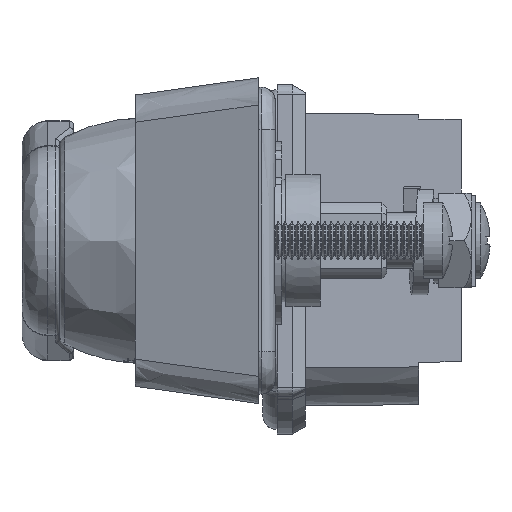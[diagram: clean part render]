
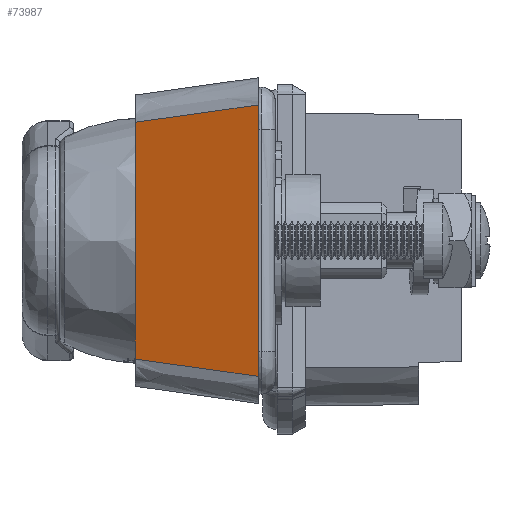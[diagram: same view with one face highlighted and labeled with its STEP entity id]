
A CAD part, left-side view. The second image highlights one B-rep face of the part: STEP entity #73987.
In plain terms, the highlighted planar face has unit normal (-0.94, 0.342, 0) as drawn and (0.94, -0.342, 0) by its records, which use the part's own axes.
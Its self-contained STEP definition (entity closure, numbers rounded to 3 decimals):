
#279 = EDGE_CURVE ( 'NONE', #61958, #84109, #91151, .T. ) ;
#1108 = VECTOR ( 'NONE', #52886, 1000. ) ;
#1298 = CARTESIAN_POINT ( 'NONE',  ( 78.673, 2.417, -13.756 ) ) ;
#6575 = EDGE_CURVE ( 'NONE', #61958, #79158, #26193, .T. ) ;
#8687 = CARTESIAN_POINT ( 'NONE',  ( 80.25, 6.75, 14.365 ) ) ;
#12485 = CARTESIAN_POINT ( 'NONE',  ( 77.096, -1.917, 13.147 ) ) ;
#13826 = ORIENTED_EDGE ( 'NONE', *, *, #72102, .F. ) ;
#14265 = DIRECTION ( 'NONE',  ( 0.94, -0.342, 0. ) ) ;
#14678 = CARTESIAN_POINT ( 'NONE',  ( 75.518, -6.25, 15.588 ) ) ;
#16775 = CARTESIAN_POINT ( 'NONE',  ( 75.518, -6.25, -12.538 ) ) ;
#19077 = CARTESIAN_POINT ( 'NONE',  ( 75.518, -6.25, 12.538 ) ) ;
#24010 = ORIENTED_EDGE ( 'NONE', *, *, #47840, .T. ) ;
#24426 = ORIENTED_EDGE ( 'NONE', *, *, #6575, .F. ) ;
#24675 = CARTESIAN_POINT ( 'NONE',  ( 77.096, -1.917, -13.147 ) ) ;
#26193 = LINE ( 'NONE', #29433, #64301 ) ;
#29433 = CARTESIAN_POINT ( 'NONE',  ( 80.25, 6.75, 17.94 ) ) ;
#31967 = VERTEX_POINT ( 'NONE', #16775 ) ;
#35494 = CARTESIAN_POINT ( 'NONE',  ( 80.25, 6.75, 14.365 ) ) ;
#39846 = AXIS2_PLACEMENT_3D ( 'NONE', #59861, #14265, #67536 ) ;
#47235 = CARTESIAN_POINT ( 'NONE',  ( 80.25, 6.75, -14.365 ) ) ;
#47840 = EDGE_CURVE ( 'NONE', #84109, #31967, #64295, .T. ) ;
#52151 = PLANE ( 'NONE',  #39846 ) ;
#52886 = DIRECTION ( 'NONE',  ( 0., 0., -1. ) ) ;
#58687 = B_SPLINE_CURVE_WITH_KNOTS ( 'NONE', 3,
 ( #47235, #1298, #24675, #77912 ),
 .UNSPECIFIED., .F., .F.,
 ( 4, 4 ),
 ( 0., 1.026 ),
 .UNSPECIFIED. ) ;
#59861 = CARTESIAN_POINT ( 'NONE',  ( 75.546, -6.174, 14.939 ) ) ;
#61958 = VERTEX_POINT ( 'NONE', #8687 ) ;
#64295 = LINE ( 'NONE', #14678, #1108 ) ;
#64301 = VECTOR ( 'NONE', #89999, 1000. ) ;
#64731 = EDGE_LOOP ( 'NONE', ( #24010, #13826, #24426, #96864 ) ) ;
#65788 = CARTESIAN_POINT ( 'NONE',  ( 78.673, 2.417, 13.756 ) ) ;
#67536 = DIRECTION ( 'NONE',  ( 0.342, 0.94, 0. ) ) ;
#68690 = FACE_OUTER_BOUND ( 'NONE', #64731, .T. ) ;
#72102 = EDGE_CURVE ( 'NONE', #79158, #31967, #58687, .T. ) ;
#73987 = ADVANCED_FACE ( 'NONE', ( #68690 ), #52151, .T. ) ;
#77912 = CARTESIAN_POINT ( 'NONE',  ( 75.518, -6.25, -12.538 ) ) ;
#78447 = CARTESIAN_POINT ( 'NONE',  ( 80.25, 6.75, -14.365 ) ) ;
#79158 = VERTEX_POINT ( 'NONE', #78447 ) ;
#84109 = VERTEX_POINT ( 'NONE', #19077 ) ;
#88759 = CARTESIAN_POINT ( 'NONE',  ( 75.518, -6.25, 12.538 ) ) ;
#89999 = DIRECTION ( 'NONE',  ( 0., 0., -1. ) ) ;
#91151 = B_SPLINE_CURVE_WITH_KNOTS ( 'NONE', 3,
 ( #35494, #65788, #12485, #88759 ),
 .UNSPECIFIED., .F., .F.,
 ( 4, 4 ),
 ( 0., 1.026 ),
 .UNSPECIFIED. ) ;
#96864 = ORIENTED_EDGE ( 'NONE', *, *, #279, .T. ) ;
